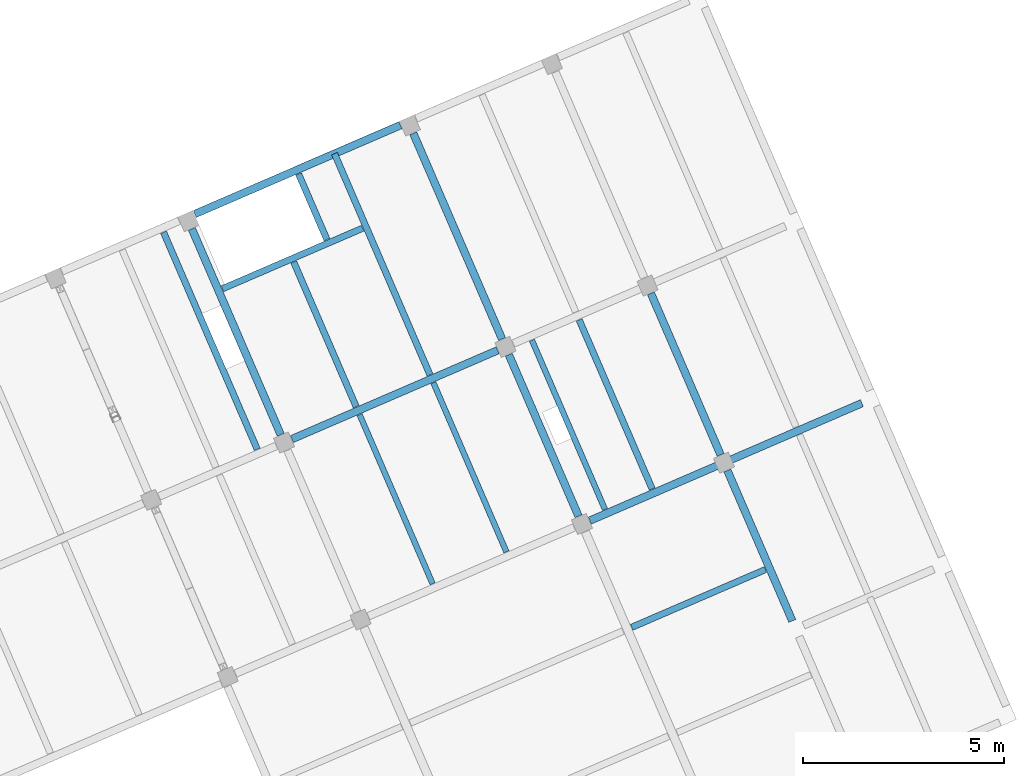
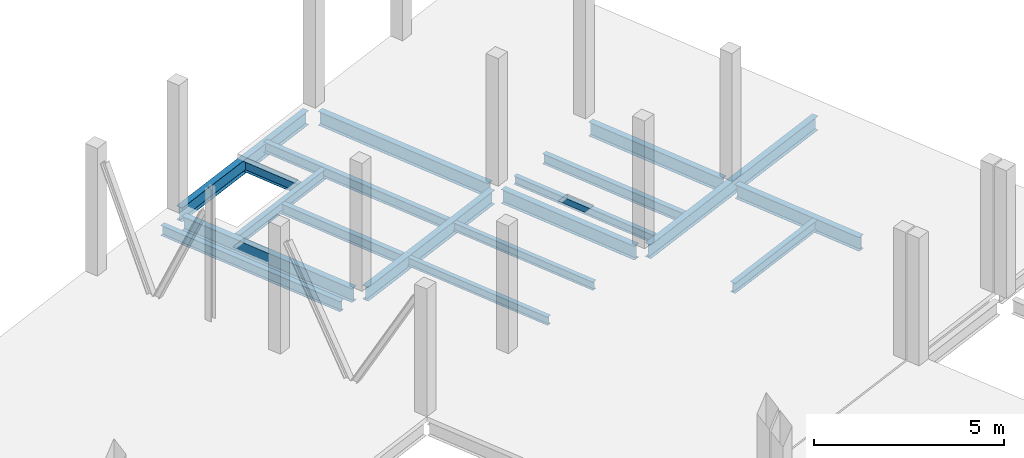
# One storey, part 20 of 24: 18 beams.
"""IFC4 building model written with IfcOpenShell, lengths in metres."""

from ifc_helpers import new_model, entity, si_unit, converted_unit, derived_unit, direction, frame, origin, place, context, subcontext, project, spatial, line, arc, indexed_curve, outline, extrude, source, transform, mapped, material, type_object, type_shapes, element, save


model = new_model("IFC4")

# Units and contexts
model_context = context("Model", 3, precision=1e-05, world=origin(), true_north=direction((6.12323399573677e-17, 1.0)))
body_context = subcontext(model_context, "Body", "Model", "MODEL_VIEW")
ifc_project = project(units=[si_unit("LENGTHUNIT", "METRE"), si_unit("AREAUNIT", "SQUARE_METRE"), si_unit("VOLUMEUNIT", "CUBIC_METRE"), converted_unit("PLANEANGLEUNIT", "DEGREE", entity("IfcPlaneAngleMeasure", 0.0174532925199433), si_unit("PLANEANGLEUNIT", "RADIAN"), dimensions=[0, 0, 0, 0, 0, 0, 0]), si_unit("MASSUNIT", "GRAM", prefix="KILO"), derived_unit("MOMENTOFINERTIAUNIT", [(si_unit("LENGTHUNIT", "METRE"), 4)]), derived_unit("LINEARFORCEUNIT", [(si_unit("MASSUNIT", "GRAM", prefix="KILO"), 1), (si_unit("TIMEUNIT", "SECOND"), -2)]), derived_unit("WARPINGCONSTANTUNIT", [(si_unit("LENGTHUNIT", "METRE"), 6)]), derived_unit("THERMALTRANSMITTANCEUNIT", [(si_unit("MASSUNIT", "GRAM", prefix="KILO"), 1), (si_unit("THERMODYNAMICTEMPERATUREUNIT", "KELVIN"), -1), (si_unit("TIMEUNIT", "SECOND"), -3)]), derived_unit("USERDEFINED", [(si_unit("MASSUNIT", "GRAM", prefix="KILO"), 1), (si_unit("TIMEUNIT", "SECOND"), -2), (si_unit("THERMODYNAMICTEMPERATUREUNIT", "KELVIN"), -1)]), derived_unit("THERMALRESISTANCEUNIT", [(si_unit("MASSUNIT", "GRAM", prefix="KILO"), -1), (si_unit("TIMEUNIT", "SECOND"), 3), (si_unit("THERMODYNAMICTEMPERATUREUNIT", "KELVIN"), 1)])], contexts=[model_context])

# Site, building, storey
site_placement = place(None, origin())
site = spatial("IfcSite", under=ifc_project, at=site_placement, Name="Default", CompositionType="ELEMENT")
building_placement = place(site_placement, frame((12.6613425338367, -82.5732315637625, 317.15), z_axis=(0.0, 0.0, 1.0), x_axis=(-0.396377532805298, 0.918087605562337, 0.0)))
building = spatial("IfcBuilding", under=site, at=building_placement, Name="CESFAM Coyhaique", CompositionType="ELEMENT")
storey_placement = place(building_placement, frame((0.0, 0.0, 4.20000000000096)))
storey = spatial("IfcBuildingStorey", under=building, at=storey_placement, Name="Nivel 2", CompositionType="ELEMENT", Elevation=4.20000000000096)

# Beams
ifc_material = material(Name="Steel, 45-345", Category="Metal")
beam_type_1 = type_object("IfcBeamType", Name="M_W Shapes:W450X190mm", PredefinedType="BEAM", material=ifc_material)
shared_shape_1 = source(origin(), body_context, "Body", "SweptSolid", [
    extrude(outline(indexed_curve([(-0.0949999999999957, -0.225000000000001), (0.0950000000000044, -0.225000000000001), (0.0950000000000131, -0.21535), (0.0105700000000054, -0.21535), (0.00516063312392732, -0.213109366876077), (0.00292000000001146, -0.2077), (0.0029200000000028, 0.207699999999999), (0.00516063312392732, 0.213109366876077), (0.0105700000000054, 0.21535), (0.0950000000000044, 0.21535), (0.0950000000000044, 0.224999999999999), (-0.0949999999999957, 0.224999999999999), (-0.0949999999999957, 0.21535), (-0.0105699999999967, 0.215349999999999), (-0.00516063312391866, 0.213109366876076), (-0.00291999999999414, 0.207699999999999), (-0.00291999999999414, -0.2077), (-0.00516063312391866, -0.213109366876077), (-0.0105699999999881, -0.21535), (-0.0949999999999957, -0.21535)], segments=[line(1, 2, 3, 4), arc(4, 5, 6), line(6, 7), arc(7, 8, 9), line(9, 10, 11, 12, 13, 14), arc(14, 15, 16), line(16, 17), arc(17, 18, 19), line(19, 20, 1)], self_intersect=False)), frame((43.7688534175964, -28.7844495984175, 3.82500000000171), z_axis=(0.0, 1.0, 0.0), x_axis=(-1.0, 0.0, 0.0)), (0.0, 0.0, 1.0), 7.3746),
])
type_shapes(beam_type_1, [shared_shape_1])
beam_1_placement = place(storey_placement, frame((0.0, 0.0, -4.20000000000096)))
element("IfcBeam", 1, at=beam_1_placement, inside=storey, type_object=beam_type_1, Name="M_W Shapes:W450X190mm", ObjectType="M_W Shapes:W450X190mm", PredefinedType="BEAM", context=body_context, shape_type="MappedRepresentation", body=[
    mapped(shared_shape_1, transform((0.0, 0.0, 0.0), scale=1.0)),
])
beam_type_2 = type_object("IfcBeamType", Name="M_W Shapes:W450X190mm", PredefinedType="BEAM", material=ifc_material)
shared_shape_2 = source(origin(), body_context, "Body", "SweptSolid", [
    extrude(outline(indexed_curve([(-0.225, -0.0950000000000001), (-0.215350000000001, -0.0950000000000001), (-0.21535, -0.0105700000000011), (-0.213109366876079, -0.00516063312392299), (-0.2077, -0.0029200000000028), (0.207699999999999, -0.0029200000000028), (0.213109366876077, -0.00516063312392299), (0.215349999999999, -0.0105700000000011), (0.215349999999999, -0.0950000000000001), (0.225, -0.0950000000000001), (0.225, 0.0950000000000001), (0.215349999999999, 0.0950000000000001), (0.215349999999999, 0.0105699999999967), (0.213109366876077, 0.00516063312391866), (0.207699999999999, 0.00291999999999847), (-0.2077, 0.00291999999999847), (-0.213109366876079, 0.00516063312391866), (-0.215350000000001, 0.0105700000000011), (-0.215350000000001, 0.0950000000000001), (-0.225, 0.0950000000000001)], segments=[line(1, 2, 3), arc(3, 4, 5), line(5, 6), arc(6, 7, 8), line(8, 9, 10, 11, 12, 13), arc(13, 14, 15), line(15, 16), arc(16, 17, 18), line(18, 19, 20, 1)], self_intersect=False)), frame((43.9815534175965, -21.197149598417, 3.82500000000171), z_axis=(1.0, 0.0, 0.0), x_axis=(0.0, 0.0, -1.0)), (0.0, 0.0, 1.0), 4.3746),
])
type_shapes(beam_type_2, [shared_shape_2])
beam_2_placement = place(storey_placement, frame((0.0, 0.0, -4.20000000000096)))
element("IfcBeam", 2, at=beam_2_placement, inside=storey, type_object=beam_type_2, Name="M_W Shapes:W450X190mm", ObjectType="M_W Shapes:W450X190mm", PredefinedType="BEAM", context=body_context, shape_type="MappedRepresentation", body=[
    mapped(shared_shape_2, transform((0.0, 0.0, 0.0), scale=1.0)),
])
beam_type_3 = type_object("IfcBeamType", Name="M_W Shapes:W450X190mm", PredefinedType="BEAM", material=ifc_material)
shared_shape_3 = source(origin(), body_context, "Body", "SweptSolid", [
    extrude(outline(indexed_curve([(-0.225, -0.0950000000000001), (-0.215350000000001, -0.0950000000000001), (-0.21535, -0.0105700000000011), (-0.213109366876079, -0.00516063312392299), (-0.2077, -0.0029200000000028), (0.207699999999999, -0.0029200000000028), (0.213109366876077, -0.00516063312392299), (0.215349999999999, -0.0105700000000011), (0.215349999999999, -0.0950000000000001), (0.225, -0.0950000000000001), (0.225, 0.0950000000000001), (0.215349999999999, 0.0950000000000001), (0.215349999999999, 0.0105699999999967), (0.213109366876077, 0.00516063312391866), (0.207699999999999, 0.00291999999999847), (-0.2077, 0.00291999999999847), (-0.213109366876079, 0.00516063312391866), (-0.215350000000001, 0.0105699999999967), (-0.215350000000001, 0.0950000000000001), (-0.225, 0.0950000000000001)], segments=[line(1, 2, 3), arc(3, 4, 5), line(5, 6), arc(6, 7, 8), line(8, 9, 10, 11, 12, 13), arc(13, 14, 15), line(15, 16), arc(16, 17, 18), line(18, 19, 20, 1)], self_intersect=False)), frame((48.7815534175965, -21.1971495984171, 3.82500000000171), z_axis=(1.0, 0.0, 0.0), x_axis=(0.0, 0.0, -1.0)), (0.0, 0.0, 1.0), 5.5746),
])
type_shapes(beam_type_3, [shared_shape_3])
beam_3_placement = place(storey_placement, frame((0.0, 0.0, -4.20000000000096)))
element("IfcBeam", 3, at=beam_3_placement, inside=storey, type_object=beam_type_3, Name="M_W Shapes:W450X190mm", ObjectType="M_W Shapes:W450X190mm", PredefinedType="BEAM", context=body_context, shape_type="MappedRepresentation", body=[
    mapped(shared_shape_3, transform((0.0, 0.0, 0.0), scale=1.0)),
])
beam_type_4 = type_object("IfcBeamType", Name="M_W Shapes:W450X190mm", PredefinedType="BEAM", material=ifc_material)
shared_shape_4 = source(origin(), body_context, "Body", "SweptSolid", [
    extrude(outline(indexed_curve([(-0.0949999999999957, -0.225000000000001), (0.0950000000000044, -0.225000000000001), (0.0950000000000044, -0.21535), (0.0105700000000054, -0.21535), (0.00516063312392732, -0.213109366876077), (0.00292000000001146, -0.2077), (0.0029200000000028, 0.207699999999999), (0.00516063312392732, 0.213109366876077), (0.0105700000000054, 0.21535), (0.0950000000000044, 0.21535), (0.0950000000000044, 0.224999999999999), (-0.0949999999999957, 0.224999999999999), (-0.0949999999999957, 0.21535), (-0.0105699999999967, 0.215349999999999), (-0.00516063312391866, 0.213109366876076), (-0.00291999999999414, 0.207699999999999), (-0.00291999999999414, -0.2077), (-0.00516063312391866, -0.213109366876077), (-0.0105699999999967, -0.21535), (-0.0949999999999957, -0.21535)], segments=[line(1, 2, 3, 4), arc(4, 5, 6), line(6, 7), arc(7, 8, 9), line(9, 10, 11, 12, 13, 14), arc(14, 15, 16), line(16, 17), arc(17, 18, 19), line(19, 20, 1)], self_intersect=False)), frame((48.5688534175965, -20.9844495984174, 3.82500000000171), z_axis=(0.0, 1.0, 0.0), x_axis=(-1.0, 0.0, 0.0)), (0.0, 0.0, 1.0), 5.5746),
])
type_shapes(beam_type_4, [shared_shape_4])
beam_4_placement = place(storey_placement, frame((0.0, 0.0, -4.20000000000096)))
element("IfcBeam", 4, at=beam_4_placement, inside=storey, type_object=beam_type_4, Name="M_W Shapes:W450X190mm", ObjectType="M_W Shapes:W450X190mm", PredefinedType="BEAM", context=body_context, shape_type="MappedRepresentation", body=[
    mapped(shared_shape_4, transform((0.0, 0.0, 0.0), scale=1.0)),
])
beam_type_5 = type_object("IfcBeamType", Name="M_W Shapes:W450X190mm", PredefinedType="BEAM", material=ifc_material)
shared_shape_5 = source(origin(), body_context, "Body", "SweptSolid", [
    extrude(outline(indexed_curve([(-0.0950000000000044, -0.225000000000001), (0.0949999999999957, -0.225000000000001), (0.0949999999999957, -0.21535), (0.0105699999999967, -0.21535), (0.00516063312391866, -0.213109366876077), (0.0029200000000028, -0.2077), (0.00291999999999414, 0.207699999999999), (0.00516063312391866, 0.213109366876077), (0.0105699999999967, 0.21535), (0.0949999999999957, 0.21535), (0.0949999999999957, 0.224999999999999), (-0.0950000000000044, 0.224999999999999), (-0.0950000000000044, 0.21535), (-0.0105700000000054, 0.215349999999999), (-0.00516063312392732, 0.213109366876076), (-0.0029200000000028, 0.207699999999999), (-0.0029200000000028, -0.2077), (-0.00516063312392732, -0.213109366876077), (-0.0105700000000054, -0.21535), (-0.0950000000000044, -0.21535)], segments=[line(1, 2, 3, 4), arc(4, 5, 6), line(6, 7), arc(7, 8, 9), line(9, 10, 11, 12, 13, 14), arc(14, 15, 16), line(16, 17), arc(17, 18, 19), line(19, 20, 1)], self_intersect=False)), frame((54.6688534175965, -20.9844495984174, 3.82500000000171), z_axis=(0.0, 1.0, 0.0), x_axis=(-1.0, 0.0, 0.0)), (0.0, 0.0, 1.0), 5.5746),
])
type_shapes(beam_type_5, [shared_shape_5])
beam_5_placement = place(storey_placement, frame((0.0, 0.0, -4.20000000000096)))
element("IfcBeam", 5, at=beam_5_placement, inside=storey, type_object=beam_type_5, Name="M_W Shapes:W450X190mm", ObjectType="M_W Shapes:W450X190mm", PredefinedType="BEAM", context=body_context, shape_type="MappedRepresentation", body=[
    mapped(shared_shape_5, transform((0.0, 0.0, 0.0), scale=1.0)),
])
beam_type_6 = type_object("IfcBeamType", Name="M_W Shapes:W450X190mm", PredefinedType="BEAM", material=ifc_material)
shared_shape_6 = source(origin(), body_context, "Body", "SweptSolid", [
    extrude(outline(indexed_curve([(-0.225, -0.0949999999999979), (-0.215350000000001, -0.0949999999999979), (-0.21535, -0.0105699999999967), (-0.213109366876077, -0.00516063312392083), (-0.2077, -0.0029199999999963), (0.207699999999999, -0.0029199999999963), (0.213109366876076, -0.00516063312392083), (0.215349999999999, -0.0105699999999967), (0.215349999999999, -0.0949999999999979), (0.225, -0.0949999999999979), (0.225, 0.0950000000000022), (0.215349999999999, 0.0950000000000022), (0.215349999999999, 0.0105700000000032), (0.213109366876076, 0.00516063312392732), (0.207699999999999, 0.0029200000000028), (-0.2077, 0.0029200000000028), (-0.213109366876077, 0.00516063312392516), (-0.215350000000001, 0.0105700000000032), (-0.215350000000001, 0.0950000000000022), (-0.225, 0.0950000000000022)], segments=[line(1, 2, 3), arc(3, 4, 5), line(5, 6), arc(6, 7, 8), line(8, 9, 10, 11, 12, 13), arc(13, 14, 15), line(15, 16), arc(16, 17, 18), line(18, 19, 20, 1)], self_intersect=False)), frame((48.7815534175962, -15.1971495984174, 3.82500000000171), z_axis=(1.0, 0.0, 0.0), x_axis=(0.0, 0.0, -1.0)), (0.0, 0.0, 1.0), 5.5746),
])
type_shapes(beam_type_6, [shared_shape_6])
beam_6_placement = place(storey_placement, frame((0.0, 0.0, -4.20000000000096)))
element("IfcBeam", 6, at=beam_6_placement, inside=storey, type_object=beam_type_6, Name="M_W Shapes:W450X190mm", ObjectType="M_W Shapes:W450X190mm", PredefinedType="BEAM", context=body_context, shape_type="MappedRepresentation", body=[
    mapped(shared_shape_6, transform((0.0, 0.0, 0.0), scale=1.0)),
])
beam_type_7 = type_object("IfcBeamType", Name="M_W Shapes:W450X190mm", PredefinedType="BEAM", material=ifc_material)
shared_shape_7 = source(origin(), body_context, "Body", "SweptSolid", [
    extrude(outline(indexed_curve([(-0.225, -0.0950000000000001), (-0.215350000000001, -0.0950000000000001), (-0.21535, -0.0105700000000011), (-0.213109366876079, -0.00516063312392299), (-0.2077, -0.0029200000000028), (0.207699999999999, -0.0029200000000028), (0.213109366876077, -0.00516063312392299), (0.215349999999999, -0.0105700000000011), (0.215349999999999, -0.0950000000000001), (0.225, -0.0950000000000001), (0.225, 0.0950000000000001), (0.215349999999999, 0.0950000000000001), (0.215349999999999, 0.0105699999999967), (0.213109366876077, 0.00516063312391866), (0.207699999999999, 0.00291999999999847), (-0.2077, 0.00291999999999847), (-0.213109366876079, 0.00516063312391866), (-0.215350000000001, 0.0105700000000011), (-0.215350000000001, 0.0950000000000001), (-0.225, 0.0950000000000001)], segments=[line(1, 2, 3), arc(3, 4, 5), line(5, 6), arc(6, 7, 8), line(8, 9, 10, 11, 12, 13), arc(13, 14, 15), line(15, 16), arc(16, 17, 18), line(18, 19, 20, 1)], self_intersect=False)), frame((43.9815534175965, -25.0471495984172, 3.82500000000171), z_axis=(1.0, 0.0, 0.0), x_axis=(0.0, 0.0, -1.0)), (0.0, 0.0, 1.0), 4.3746),
])
type_shapes(beam_type_7, [shared_shape_7])
beam_7_placement = place(storey_placement, frame((0.0, 0.0, -4.20000000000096)))
element("IfcBeam", 7, at=beam_7_placement, inside=storey, type_object=beam_type_7, Name="M_W Shapes:W450X190mm", ObjectType="M_W Shapes:W450X190mm", PredefinedType="BEAM", context=body_context, shape_type="MappedRepresentation", body=[
    mapped(shared_shape_7, transform((0.0, 0.0, 0.0), scale=1.0)),
])
beam_type_8 = type_object("IfcBeamType", Name="M_W Shapes:W450X190mm", PredefinedType="BEAM", material=ifc_material)
shared_shape_8 = source(origin(), body_context, "Body", "SweptSolid", [
    extrude(outline(indexed_curve([(-0.225, -0.0950000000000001), (-0.215350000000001, -0.0950000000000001), (-0.21535, -0.0105700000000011), (-0.213109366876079, -0.00516063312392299), (-0.2077, -0.0029200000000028), (0.207699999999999, -0.0029200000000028), (0.213109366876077, -0.00516063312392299), (0.215349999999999, -0.0105700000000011), (0.215349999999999, -0.0950000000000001), (0.225, -0.0950000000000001), (0.225, 0.0950000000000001), (0.215349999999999, 0.0950000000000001), (0.215349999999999, 0.0105699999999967), (0.213109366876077, 0.00516063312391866), (0.207699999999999, 0.00291999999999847), (-0.2077, 0.00291999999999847), (-0.213109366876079, 0.00516063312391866), (-0.215350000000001, 0.0105699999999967), (-0.215350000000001, 0.0950000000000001), (-0.225, 0.0950000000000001)], segments=[line(1, 2, 3), arc(3, 4, 5), line(5, 6), arc(6, 7, 8), line(8, 9, 10, 11, 12, 13), arc(13, 14, 15), line(15, 16), arc(16, 17, 18), line(18, 19, 20, 1)], self_intersect=False)), frame((39.4815534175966, -25.0471495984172, 3.82500000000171), z_axis=(1.0, 0.0, 0.0), x_axis=(0.0, 0.0, -1.0)), (0.0, 0.0, 1.0), 4.0746),
])
type_shapes(beam_type_8, [shared_shape_8])
beam_8_placement = place(storey_placement, frame((0.0, 0.0, -4.20000000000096)))
element("IfcBeam", 8, at=beam_8_placement, inside=storey, type_object=beam_type_8, Name="M_W Shapes:W450X190mm", ObjectType="M_W Shapes:W450X190mm", PredefinedType="BEAM", context=body_context, shape_type="MappedRepresentation", body=[
    mapped(shared_shape_8, transform((0.0, 0.0, 0.0), scale=1.0)),
])
beam_type_9 = type_object("IfcBeamType", Name="M_W Shapes:W330X160mm", PredefinedType="BEAM", material=ifc_material)
shared_shape_9 = source(origin(), body_context, "Body", "SweptSolid", [
    extrude(outline(indexed_curve([(-0.0799999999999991, -0.165), (0.0799999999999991, -0.165), (0.0799999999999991, -0.15535), (0.0105699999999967, -0.15535), (0.00516063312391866, -0.153109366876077), (0.0029200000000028, -0.1477), (0.00291999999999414, 0.1477), (0.00516063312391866, 0.153109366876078), (0.0105699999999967, 0.15535), (0.0799999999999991, 0.15535), (0.0799999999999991, 0.164999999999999), (-0.0799999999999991, 0.164999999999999), (-0.0799999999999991, 0.15535), (-0.0105700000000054, 0.15535), (-0.00516063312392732, 0.153109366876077), (-0.0029200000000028, 0.1477), (-0.0029200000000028, -0.1477), (-0.00516063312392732, -0.153109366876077), (-0.0105700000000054, -0.15535), (-0.0799999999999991, -0.15535)], segments=[line(1, 2, 3, 4), arc(4, 5, 6), line(6, 7), arc(7, 8, 9), line(9, 10, 11, 12, 13, 14), arc(14, 15, 16), line(16, 17), arc(17, 18, 19), line(19, 20, 1)], self_intersect=False)), frame((40.9187775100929, -24.9394495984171, 3.88500000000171), z_axis=(0.0, 1.0, 0.0), x_axis=(-1.0, 0.0, 0.0)), (0.0, 0.0, 1.0), 3.6246),
])
type_shapes(beam_type_9, [shared_shape_9])
beam_9_placement = place(storey_placement, frame((0.0, 0.0, -4.20000000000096)))
element("IfcBeam", 9, at=beam_9_placement, inside=storey, type_object=beam_type_9, Name="M_W Shapes:W330X160mm", ObjectType="M_W Shapes:W330X160mm", PredefinedType="BEAM", context=body_context, shape_type="MappedRepresentation", body=[
    mapped(shared_shape_9, transform((0.0, 0.0, 0.0), scale=1.0)),
])
beam_type_10 = type_object("IfcBeamType", Name="M_W Shapes:W330X160mm", PredefinedType="BEAM", material=ifc_material)
shared_shape_10 = source(origin(), body_context, "Body", "SweptSolid", [
    extrude(outline(indexed_curve([(-0.164999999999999, -0.0799999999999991), (-0.15535, -0.0799999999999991), (-0.15535, -0.0105699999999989), (-0.153109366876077, -0.00516063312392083), (-0.1477, -0.00291999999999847), (0.1477, -0.00291999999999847), (0.153109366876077, -0.00516063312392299), (0.15535, -0.0105699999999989), (0.155349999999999, -0.0799999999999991), (0.165, -0.0799999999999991), (0.165000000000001, 0.0800000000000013), (0.15535, 0.0800000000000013), (0.15535, 0.0105700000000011), (0.153109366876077, 0.00516063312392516), (0.1477, 0.00292000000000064), (-0.1477, 0.00292000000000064), (-0.153109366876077, 0.00516063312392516), (-0.15535, 0.0105700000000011), (-0.15535, 0.0800000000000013), (-0.164999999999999, 0.0800000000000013)], segments=[line(1, 2, 3), arc(3, 4, 5), line(5, 6), arc(6, 7, 8), line(8, 9, 10, 11, 12, 13), arc(13, 14, 15), line(15, 16), arc(16, 17, 18), line(18, 19, 20, 1)], self_intersect=False)), frame((54.6688534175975, -19.197149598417, 3.88500000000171), z_axis=(-1.0, 0.0, 0.0), x_axis=(0.0, 0.0, -1.0)), (0.0, 0.0, 1.0), 5.9923),
])
type_shapes(beam_type_10, [shared_shape_10])
beam_10_placement = place(storey_placement, frame((0.0, 0.0, -4.20000000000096)))
element("IfcBeam", 10, at=beam_10_placement, inside=storey, type_object=beam_type_10, Name="M_W Shapes:W330X160mm", ObjectType="M_W Shapes:W330X160mm", PredefinedType="BEAM", context=body_context, shape_type="MappedRepresentation", body=[
    mapped(shared_shape_10, transform((0.0, 0.0, 0.0), scale=1.0)),
])
beam_type_11 = type_object("IfcBeamType", Name="M_W Shapes:W270X140mm", PredefinedType="BEAM", material=ifc_material)
shared_shape_11 = source(origin(), body_context, "Body", "SweptSolid", [
    extrude(outline(indexed_curve([(-0.135, -0.0700000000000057), (-0.125350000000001, -0.0700000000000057), (-0.125350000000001, -0.0105700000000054), (-0.123109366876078, -0.00516063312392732), (-0.117700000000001, -0.00292000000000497), (0.117699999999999, -0.00292000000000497), (0.123109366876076, -0.00516063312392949), (0.125349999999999, -0.0105700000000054), (0.125349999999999, -0.0700000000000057), (0.135, -0.0700000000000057), (0.135, 0.0699999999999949), (0.125349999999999, 0.0699999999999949), (0.125349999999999, 0.0105699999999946), (0.123109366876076, 0.00516063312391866), (0.117699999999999, 0.00291999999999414), (-0.117700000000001, 0.00291999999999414), (-0.123109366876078, 0.00516063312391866), (-0.125350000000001, 0.0105699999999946), (-0.12535, 0.0699999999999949), (-0.135, 0.0699999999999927)], segments=[line(1, 2, 3), arc(3, 4, 5), line(5, 6), arc(6, 7, 8), line(8, 9, 10, 11, 12, 13), arc(13, 14, 15), line(15, 16), arc(16, 17, 18), line(18, 19, 20, 1)], self_intersect=False)), frame((48.4611534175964, -19.197149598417, 3.91500000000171), z_axis=(-1.0, 0.0, 0.0), x_axis=(0.0, 0.0, -1.0)), (0.0, 0.0, 1.0), 4.5846),
])
type_shapes(beam_type_11, [shared_shape_11])
beam_11_placement = place(storey_placement, frame((0.0, 0.0, -4.20000000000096)))
element("IfcBeam", 11, at=beam_11_placement, inside=storey, type_object=beam_type_11, Name="M_W Shapes:W270X140mm", ObjectType="M_W Shapes:W270X140mm", PredefinedType="BEAM", context=body_context, shape_type="MappedRepresentation", body=[
    mapped(shared_shape_11, transform((0.0, 0.0, 0.0), scale=1.0)),
])
beam_type_12 = type_object("IfcBeamType", Name="M_W Shapes:W330X160mm", PredefinedType="BEAM", material=ifc_material)
shared_shape_12 = source(origin(), body_context, "Body", "SweptSolid", [
    extrude(outline(indexed_curve([(-0.164999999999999, -0.0800000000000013), (-0.15535, -0.0799999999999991), (-0.15535, -0.0105700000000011), (-0.153109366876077, -0.00516063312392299), (-0.1477, -0.00292000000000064), (0.1477, -0.00292000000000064), (0.153109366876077, -0.00516063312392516), (0.15535, -0.0105700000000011), (0.155349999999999, -0.0800000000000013), (0.165, -0.0799999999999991), (0.165000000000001, 0.0799999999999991), (0.15535, 0.0799999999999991), (0.15535, 0.0105699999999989), (0.153109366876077, 0.00516063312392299), (0.1477, 0.00291999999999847), (-0.1477, 0.00291999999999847), (-0.153109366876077, 0.00516063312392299), (-0.15535, 0.0105700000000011), (-0.15535, 0.0799999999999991), (-0.164999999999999, 0.0799999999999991)], segments=[line(1, 2, 3), arc(3, 4, 5), line(5, 6), arc(6, 7, 8), line(8, 9, 10, 11, 12, 13), arc(13, 14, 15), line(15, 16), arc(16, 17, 18), line(18, 19, 20, 1)], self_intersect=False)), frame((52.5961534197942, -17.197149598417, 3.88500000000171), z_axis=(-1.0, 0.0, 0.0), x_axis=(0.0, 0.0, -1.0)), (0.0, 0.0, 1.0), 3.9196),
])
type_shapes(beam_type_12, [shared_shape_12])
beam_12_placement = place(storey_placement, frame((0.0, 0.0, -4.20000000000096)))
element("IfcBeam", 12, at=beam_12_placement, inside=storey, type_object=beam_type_12, Name="M_W Shapes:W330X160mm", ObjectType="M_W Shapes:W330X160mm", PredefinedType="BEAM", context=body_context, shape_type="MappedRepresentation", body=[
    mapped(shared_shape_12, transform((0.0, 0.0, 0.0), scale=1.0)),
])
beam_type_13 = type_object("IfcBeamType", Name="M_W Shapes:W270X140mm", PredefinedType="BEAM", material=ifc_material)
shared_shape_13 = source(origin(), body_context, "Body", "SweptSolid", [
    extrude(outline(indexed_curve([(-0.135, -0.0699999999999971), (-0.125350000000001, -0.0699999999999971), (-0.125350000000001, -0.0105699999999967), (-0.123109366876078, -0.00516063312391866), (-0.117700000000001, -0.0029199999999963), (0.117699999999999, -0.0029199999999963), (0.123109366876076, -0.00516063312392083), (0.125349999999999, -0.0105699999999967), (0.125349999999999, -0.0699999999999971), (0.135, -0.0699999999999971), (0.135, 0.0700000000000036), (0.125349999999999, 0.0700000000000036), (0.125349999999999, 0.0105700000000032), (0.123109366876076, 0.00516063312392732), (0.117699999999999, 0.0029200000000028), (-0.117700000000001, 0.0029200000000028), (-0.123109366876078, 0.00516063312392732), (-0.125350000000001, 0.0105700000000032), (-0.12535, 0.0700000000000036), (-0.135, 0.0700000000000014)], segments=[line(1, 2, 3), arc(3, 4, 5), line(5, 6), arc(6, 7, 8), line(8, 9, 10, 11, 12, 13), arc(13, 14, 15), line(15, 16), arc(16, 17, 18), line(18, 19, 20, 1)], self_intersect=False)), frame((48.4611534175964, -17.197149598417, 3.91500000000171), z_axis=(-1.0, 0.0, 0.0), x_axis=(0.0, 0.0, -1.0)), (0.0, 0.0, 1.0), 4.5846),
])
type_shapes(beam_type_13, [shared_shape_13])
beam_13_placement = place(storey_placement, frame((0.0, 0.0, -4.20000000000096)))
element("IfcBeam", 13, at=beam_13_placement, inside=storey, type_object=beam_type_13, Name="M_W Shapes:W270X140mm", ObjectType="M_W Shapes:W270X140mm", PredefinedType="BEAM", context=body_context, shape_type="MappedRepresentation", body=[
    mapped(shared_shape_13, transform((0.0, 0.0, 0.0), scale=1.0)),
])
beam_type_14 = type_object("IfcBeamType", Name="M_W Shapes:W330X160mm", PredefinedType="BEAM", material=ifc_material)
shared_shape_14 = source(origin(), body_context, "Body", "SweptSolid", [
    extrude(outline(indexed_curve([(-0.164999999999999, -0.0800000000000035), (-0.15535, -0.0800000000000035), (-0.155349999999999, -0.0105700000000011), (-0.153109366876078, -0.00516063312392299), (-0.1477, -0.0029200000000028), (0.1477, -0.0029200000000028), (0.153109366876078, -0.00516063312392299), (0.15535, -0.0105700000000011), (0.15535, -0.0800000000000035), (0.165, -0.0799999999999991), (0.165000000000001, 0.0799999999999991), (0.15535, 0.0799999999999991), (0.155349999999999, 0.0105699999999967), (0.153109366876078, 0.00516063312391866), (0.1477, 0.00291999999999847), (-0.1477, 0.00291999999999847), (-0.153109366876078, 0.00516063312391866), (-0.15535, 0.0105699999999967), (-0.15535, 0.0799999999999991), (-0.164999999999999, 0.0799999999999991)], segments=[line(1, 2, 3), arc(3, 4, 5), line(5, 6), arc(6, 7, 8), line(8, 9, 10, 11, 12, 13), arc(13, 14, 15), line(15, 16), arc(16, 17, 18), line(18, 19, 20, 1)], self_intersect=False)), frame((43.8765534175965, -23.147149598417, 3.88500000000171), z_axis=(1.0, 0.0, 0.0), x_axis=(0.0, 0.0, -1.0)), (0.0, 0.0, 1.0), 4.5846),
])
type_shapes(beam_type_14, [shared_shape_14])
beam_14_placement = place(storey_placement, frame((0.0, 0.0, -4.20000000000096)))
element("IfcBeam", 14, at=beam_14_placement, inside=storey, type_object=beam_type_14, Name="M_W Shapes:W330X160mm", ObjectType="M_W Shapes:W330X160mm", PredefinedType="BEAM", context=body_context, shape_type="MappedRepresentation", body=[
    mapped(shared_shape_14, transform((0.0, 0.0, 0.0), scale=1.0)),
])
beam_type_15 = type_object("IfcBeamType", Name="M_W Shapes:W270X140mm", PredefinedType="BEAM", material=ifc_material)
shared_shape_15 = source(origin(), body_context, "Body", "SweptSolid", [
    extrude(outline(indexed_curve([(-0.135, -0.0699999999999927), (-0.125350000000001, -0.0699999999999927), (-0.12535, -0.0105699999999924), (-0.123109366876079, -0.00516063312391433), (-0.1177, -0.00291999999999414), (0.117699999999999, -0.00291999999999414), (0.123109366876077, -0.00516063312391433), (0.125349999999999, -0.0105699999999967), (0.125349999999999, -0.0699999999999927), (0.135, -0.0699999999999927), (0.135, 0.0700000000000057), (0.125349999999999, 0.0700000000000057), (0.125349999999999, 0.0105700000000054), (0.123109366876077, 0.00516063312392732), (0.117699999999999, 0.00292000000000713), (-0.117700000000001, 0.00292000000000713), (-0.123109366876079, 0.00516063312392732), (-0.125350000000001, 0.0105700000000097), (-0.125350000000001, 0.0700000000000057), (-0.135, 0.0700000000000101)], segments=[line(1, 2, 3), arc(3, 4, 5), line(5, 6), arc(6, 7, 8), line(8, 9, 10, 11, 12, 13), arc(13, 14, 15), line(15, 16), arc(16, 17, 18), line(18, 19, 20, 1)], self_intersect=False)), frame((43.8765534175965, -21.867149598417, 3.91500000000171), z_axis=(1.0, 0.0, 0.0), x_axis=(0.0, 0.0, -1.0)), (0.0, 0.0, 1.0), 4.5846),
])
type_shapes(beam_type_15, [shared_shape_15])
beam_15_placement = place(storey_placement, frame((0.0, 0.0, -4.20000000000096)))
element("IfcBeam", 15, at=beam_15_placement, inside=storey, type_object=beam_type_15, Name="M_W Shapes:W270X140mm", ObjectType="M_W Shapes:W270X140mm", PredefinedType="BEAM", context=body_context, shape_type="MappedRepresentation", body=[
    mapped(shared_shape_15, transform((0.0, 0.0, 0.0), scale=1.0)),
])
beam_type_16 = type_object("IfcBeamType", Name="M_W Shapes:W330X160mm", PredefinedType="BEAM", material=ifc_material)
shared_shape_16 = source(origin(), body_context, "Body", "SweptSolid", [
    extrude(outline(indexed_curve([(-0.164999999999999, -0.0800000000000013), (-0.15535, -0.0800000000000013), (-0.15535, -0.0105700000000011), (-0.153109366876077, -0.00516063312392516), (-0.1477, -0.00292000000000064), (0.1477, -0.00292000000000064), (0.153109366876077, -0.00516063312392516), (0.15535, -0.0105700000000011), (0.15535, -0.0800000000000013), (0.165, -0.0800000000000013), (0.165, 0.0799999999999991), (0.15535, 0.0799999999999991), (0.15535, 0.0105699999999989), (0.153109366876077, 0.00516063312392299), (0.1477, 0.00291999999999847), (-0.1477, 0.00291999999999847), (-0.153109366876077, 0.00516063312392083), (-0.15535, 0.0105699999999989), (-0.15535, 0.0799999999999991), (-0.164999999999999, 0.0799999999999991)], segments=[line(1, 2, 3), arc(3, 4, 5), line(5, 6), arc(6, 7, 8), line(8, 9, 10, 11, 12, 13), arc(13, 14, 15), line(15, 16), arc(16, 17, 18), line(18, 19, 20, 1)], self_intersect=False)), frame((48.6765534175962, -14.5171495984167, 3.88500000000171), z_axis=(1.0, 0.0, 0.0), x_axis=(0.0, 0.0, -1.0)), (0.0, 0.0, 1.0), 5.88460000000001),
])
type_shapes(beam_type_16, [shared_shape_16])
beam_16_placement = place(storey_placement, frame((0.0, 0.0, -4.20000000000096)))
element("IfcBeam", 16, at=beam_16_placement, inside=storey, type_object=beam_type_16, Name="M_W Shapes:W330X160mm", ObjectType="M_W Shapes:W330X160mm", PredefinedType="BEAM", context=body_context, shape_type="MappedRepresentation", body=[
    mapped(shared_shape_16, transform((0.0, 0.0, 0.0), scale=1.0)),
])
beam_type_17 = type_object("IfcBeamType", Name="M_W Shapes:W330X160mm", PredefinedType="BEAM", material=ifc_material)
shared_shape_17 = source(origin(), body_context, "Body", "SweptSolid", [
    extrude(outline(indexed_curve([(-0.0799999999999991, -0.165), (0.0799999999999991, -0.165), (0.0799999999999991, -0.15535), (0.0105699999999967, -0.15535), (0.00516063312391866, -0.153109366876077), (0.0029200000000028, -0.1477), (0.00291999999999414, 0.1477), (0.00516063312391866, 0.153109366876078), (0.0105699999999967, 0.15535), (0.0799999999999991, 0.15535), (0.0799999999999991, 0.164999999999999), (-0.0799999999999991, 0.164999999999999), (-0.0799999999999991, 0.15535), (-0.0105700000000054, 0.15535), (-0.00516063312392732, 0.153109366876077), (-0.0029200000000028, 0.1477), (-0.0029200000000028, -0.1477), (-0.00516063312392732, -0.153109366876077), (-0.0105700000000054, -0.15535), (-0.0799999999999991, -0.15535)], segments=[line(1, 2, 3, 4), arc(4, 5, 6), line(6, 7), arc(7, 8, 9), line(9, 10, 11, 12, 13, 14), arc(14, 15, 16), line(16, 17), arc(17, 18, 19), line(19, 20, 1)], self_intersect=False)), frame((52.6888534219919, -19.1044495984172, 3.88500000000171), z_axis=(0.0, 1.0, 0.0), x_axis=(-1.0, 0.0, 0.0)), (0.0, 0.0, 1.0), 3.7996),
])
type_shapes(beam_type_17, [shared_shape_17])
beam_17_placement = place(storey_placement, frame((0.0, 0.0, -4.20000000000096)))
element("IfcBeam", 17, at=beam_17_placement, inside=storey, type_object=beam_type_17, Name="M_W Shapes:W330X160mm", ObjectType="M_W Shapes:W330X160mm", PredefinedType="BEAM", context=body_context, shape_type="MappedRepresentation", body=[
    mapped(shared_shape_17, transform((0.0, 0.0, 0.0), scale=1.0)),
])
beam_type_18 = type_object("IfcBeamType", Name="M_W Shapes:W330X160mm", PredefinedType="BEAM", material=ifc_material)
shared_shape_18 = source(origin(), body_context, "Body", "SweptSolid", [
    extrude(outline(indexed_curve([(-0.164999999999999, -0.0800000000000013), (-0.15535, -0.0800000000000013), (-0.15535, -0.0105700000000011), (-0.153109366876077, -0.00516063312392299), (-0.1477, -0.00292000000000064), (0.1477, -0.00292000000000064), (0.153109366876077, -0.00516063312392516), (0.15535, -0.0105700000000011), (0.155349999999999, -0.0800000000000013), (0.165, -0.0800000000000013), (0.165000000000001, 0.0799999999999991), (0.15535, 0.0799999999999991), (0.15535, 0.0105699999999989), (0.153109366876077, 0.00516063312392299), (0.1477, 0.00291999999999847), (-0.1477, 0.00291999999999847), (-0.153109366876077, 0.00516063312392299), (-0.15535, 0.0105699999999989), (-0.15535, 0.0799999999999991), (-0.164999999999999, 0.0799999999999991)], segments=[line(1, 2, 3), arc(3, 4, 5), line(5, 6), arc(6, 7, 8), line(8, 9, 10, 11, 12, 13), arc(13, 14, 15), line(15, 16), arc(16, 17, 18), line(18, 19, 20, 1)], self_intersect=False)), frame((54.5611034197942, -18.1771495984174, 3.88500000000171), z_axis=(-1.0, 0.0, 0.0), x_axis=(0.0, 0.0, -1.0)), (0.0, 0.0, 1.0), 1.7795),
])
type_shapes(beam_type_18, [shared_shape_18])
beam_18_placement = place(storey_placement, frame((0.0, 0.0, -4.20000000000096)))
element("IfcBeam", 18, at=beam_18_placement, inside=storey, type_object=beam_type_18, Name="M_W Shapes:W330X160mm", ObjectType="M_W Shapes:W330X160mm", PredefinedType="BEAM", context=body_context, shape_type="MappedRepresentation", body=[
    mapped(shared_shape_18, transform((0.0, 0.0, 0.0), scale=1.0)),
])

save(model, "model.ifc")
